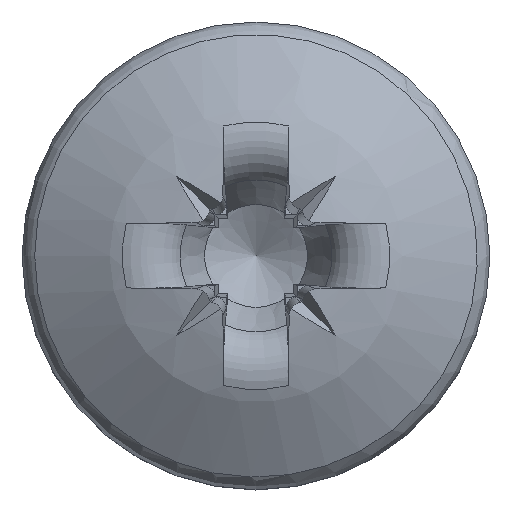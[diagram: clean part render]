
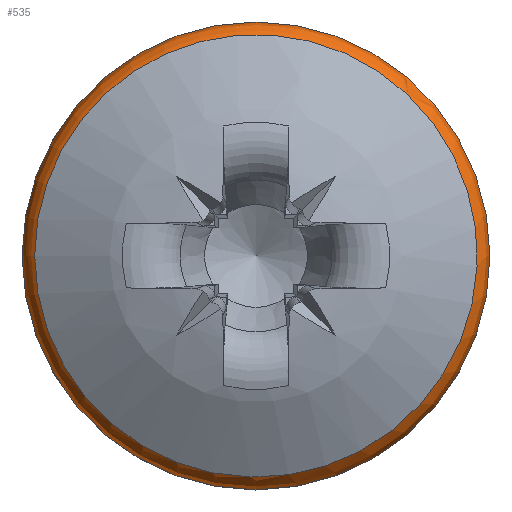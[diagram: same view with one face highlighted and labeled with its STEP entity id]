
A CAD part, top view. The second image highlights one B-rep face of the part: STEP entity #535.
In plain terms, the highlighted toroidal (fillet/blend) face has major radius 2.643 mm and minor radius 0.407 mm.
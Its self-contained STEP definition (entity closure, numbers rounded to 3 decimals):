
#441=TOROIDAL_SURFACE('',#2455,2.643,0.407);
#457=FACE_BOUND('',#839,.T.);
#458=FACE_BOUND('',#840,.T.);
#535=ADVANCED_FACE('',(#457,#458),#441,.T.);
#839=EDGE_LOOP('',(#1321));
#840=EDGE_LOOP('',(#1322));
#926=CIRCLE('',#2340,2.885);
#951=CIRCLE('',#2370,3.05);
#1321=ORIENTED_EDGE('',*,*,#1929,.F.);
#1322=ORIENTED_EDGE('',*,*,#1888,.F.);
#1685=VERTEX_POINT('',#4639);
#1724=VERTEX_POINT('',#4871);
#1888=EDGE_CURVE('',#1685,#1685,#926,.T.);
#1929=EDGE_CURVE('',#1724,#1724,#951,.T.);
#2340=AXIS2_PLACEMENT_3D('',#4638,#2473,#2474);
#2370=AXIS2_PLACEMENT_3D('',#4870,#2534,#2535);
#2455=AXIS2_PLACEMENT_3D('',#5302,#2764,#2765);
#2473=DIRECTION('',(0.,0.,1.));
#2474=DIRECTION('',(-1.,0.,0.));
#2534=DIRECTION('',(0.,0.,-1.));
#2535=DIRECTION('',(-1.,0.,0.));
#2764=DIRECTION('',(0.,0.,-1.));
#2765=DIRECTION('',(-1.,0.,0.));
#4638=CARTESIAN_POINT('',(0.,0.,1.747));
#4639=CARTESIAN_POINT('',(-2.885,0.,1.747));
#4870=CARTESIAN_POINT('',(0.,0.,1.421));
#4871=CARTESIAN_POINT('',(-3.05,0.,1.421));
#5302=CARTESIAN_POINT('',(0.,0.,1.421));
